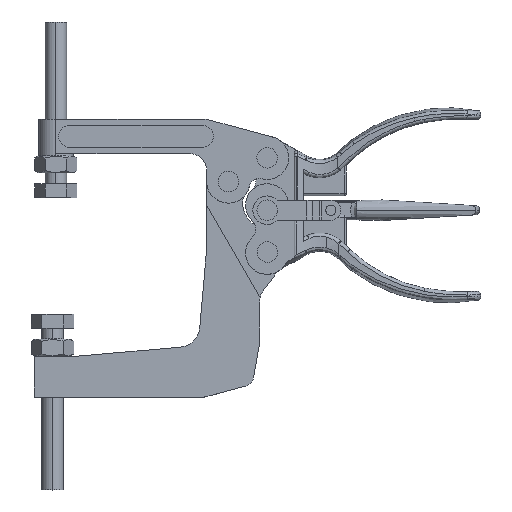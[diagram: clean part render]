
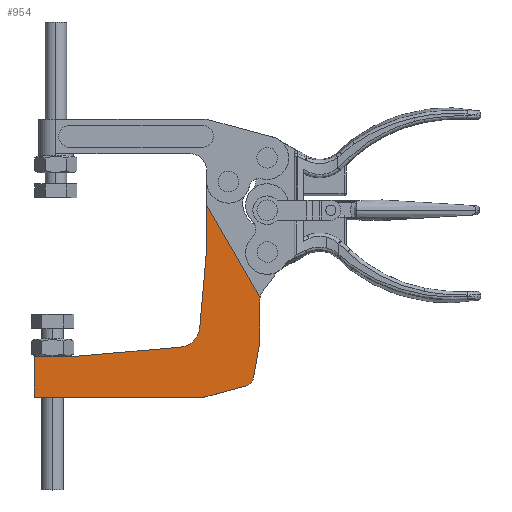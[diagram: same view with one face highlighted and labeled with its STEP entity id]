
A CAD part, top view. The second image highlights one B-rep face of the part: STEP entity #954.
In plain terms, the highlighted planar face has unit normal (0, 0, 1).
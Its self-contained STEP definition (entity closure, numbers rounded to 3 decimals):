
#134 = CARTESIAN_POINT ( 'NONE',  ( -88.108, -48.651, 0. ) ) ;
#213 = CARTESIAN_POINT ( 'NONE',  ( -6.141, -58.493, 0. ) ) ;
#310 = CARTESIAN_POINT ( 'NONE',  ( -3.348, -23.724, 0. ) ) ;
#376 = CARTESIAN_POINT ( 'NONE',  ( -11.065, -57.625, 0. ) ) ;
#414 = PLANE ( 'NONE',  #13373 ) ;
#450 = LINE ( 'NONE', #12996, #7789 ) ;
#846 = VERTEX_POINT ( 'NONE', #310 ) ;
#954 = ADVANCED_FACE ( 'NONE', ( #3756 ), #414, .T. ) ;
#1151 = VERTEX_POINT ( 'NONE', #8142 ) ;
#1406 = CARTESIAN_POINT ( 'NONE',  ( -29.165, -67.651, 0. ) ) ;
#1422 = EDGE_CURVE ( 'NONE', #11709, #1151, #5376, .T. ) ;
#1686 = DIRECTION ( 'NONE',  ( 1., 0., 0. ) ) ;
#1804 = DIRECTION ( 'NONE',  ( 0., 0., -1. ) ) ;
#1826 = VERTEX_POINT ( 'NONE', #7519 ) ;
#2223 = CARTESIAN_POINT ( 'NONE',  ( -88.108, -48.651, 0. ) ) ;
#2386 = CARTESIAN_POINT ( 'NONE',  ( -9.771, -62.455, 0. ) ) ;
#2409 = DIRECTION ( 'NONE',  ( 0., -1., 0. ) ) ;
#3004 = EDGE_CURVE ( 'NONE', #14153, #10708, #6399, .T. ) ;
#3448 = EDGE_CURVE ( 'NONE', #1826, #11562, #13144, .T. ) ;
#3533 = DIRECTION ( 'NONE',  ( 0., 0., -1. ) ) ;
#3598 = CARTESIAN_POINT ( 'NONE',  ( -27.848, 1.609, 0. ) ) ;
#3729 = CARTESIAN_POINT ( 'NONE',  ( -3.348, -42.651, 0. ) ) ;
#3756 = FACE_OUTER_BOUND ( 'NONE', #15126, .T. ) ;
#3819 = ORIENTED_EDGE ( 'NONE', *, *, #16148, .T. ) ;
#3847 = DIRECTION ( 'NONE',  ( 1., 0., 0. ) ) ;
#4034 = CARTESIAN_POINT ( 'NONE',  ( -27.848, 21.349, 0. ) ) ;
#4082 = LINE ( 'NONE', #3729, #14123 ) ;
#4114 = LINE ( 'NONE', #11711, #10224 ) ;
#4191 = ORIENTED_EDGE ( 'NONE', *, *, #3004, .T. ) ;
#4288 = ORIENTED_EDGE ( 'NONE', *, *, #10143, .T. ) ;
#4457 = ORIENTED_EDGE ( 'NONE', *, *, #10016, .T. ) ;
#4533 = ORIENTED_EDGE ( 'NONE', *, *, #15394, .T. ) ;
#4750 = LINE ( 'NONE', #15331, #7779 ) ;
#4933 = DIRECTION ( 'NONE',  ( 0.5, -0.866, 0. ) ) ;
#4954 = ORIENTED_EDGE ( 'NONE', *, *, #9521, .T. ) ;
#5359 = ORIENTED_EDGE ( 'NONE', *, *, #10897, .T. ) ;
#5376 = LINE ( 'NONE', #7389, #15415 ) ;
#5660 = CARTESIAN_POINT ( 'NONE',  ( -107.848, -48.651, 0. ) ) ;
#6329 = VECTOR ( 'NONE', #7822, 1000. ) ;
#6399 = LINE ( 'NONE', #11591, #16449 ) ;
#6463 = VECTOR ( 'NONE', #4933, 1000. ) ;
#6752 = VERTEX_POINT ( 'NONE', #4034 ) ;
#6816 = VECTOR ( 'NONE', #8732, 1000. ) ;
#7260 = ORIENTED_EDGE ( 'NONE', *, *, #14943, .T. ) ;
#7315 = CARTESIAN_POINT ( 'NONE',  ( -3.101, -21.514, 0. ) ) ;
#7389 = CARTESIAN_POINT ( 'NONE',  ( -107.848, -48.651, 0. ) ) ;
#7519 = CARTESIAN_POINT ( 'NONE',  ( -31.083, -35.367, 0. ) ) ;
#7575 = CIRCLE ( 'NONE', #12542, 5. ) ;
#7779 = VECTOR ( 'NONE', #14012, 1000. ) ;
#7789 = VECTOR ( 'NONE', #3847, 1000. ) ;
#7817 = ORIENTED_EDGE ( 'NONE', *, *, #11373, .F. ) ;
#7822 = DIRECTION ( 'NONE',  ( 0.966, 0.259, 0. ) ) ;
#8142 = CARTESIAN_POINT ( 'NONE',  ( -107.848, -67.651, 0. ) ) ;
#8285 = AXIS2_PLACEMENT_3D ( 'NONE', #11355, #3533, #12673 ) ;
#8286 = DIRECTION ( 'NONE',  ( 1., 0., 0. ) ) ;
#8552 = VERTEX_POINT ( 'NONE', #8556 ) ;
#8556 = CARTESIAN_POINT ( 'NONE',  ( -88.108, -48.651, 0. ) ) ;
#8707 = DIRECTION ( 'NONE',  ( 0., -1., 0. ) ) ;
#8732 = DIRECTION ( 'NONE',  ( -1., 0., 0. ) ) ;
#8977 = ORIENTED_EDGE ( 'NONE', *, *, #3448, .T. ) ;
#9013 = LINE ( 'NONE', #134, #15572 ) ;
#9495 = DIRECTION ( 'NONE',  ( 0., 0., 1. ) ) ;
#9521 = EDGE_CURVE ( 'NONE', #1151, #11944, #450, .T. ) ;
#9604 = CARTESIAN_POINT ( 'NONE',  ( 6.652, -23.724, 0. ) ) ;
#9805 = LINE ( 'NONE', #11717, #6329 ) ;
#9944 = LINE ( 'NONE', #10107, #6463 ) ;
#10016 = EDGE_CURVE ( 'NONE', #6752, #14971, #4114, .T. ) ;
#10107 = CARTESIAN_POINT ( 'NONE',  ( -27.848, 21.349, 0. ) ) ;
#10143 = EDGE_CURVE ( 'NONE', #11562, #8552, #9013, .T. ) ;
#10224 = VECTOR ( 'NONE', #2409, 1000. ) ;
#10708 = VERTEX_POINT ( 'NONE', #16215 ) ;
#10897 = EDGE_CURVE ( 'NONE', #846, #13898, #15950, .T. ) ;
#10921 = DIRECTION ( 'NONE',  ( 1., 0., 0. ) ) ;
#11313 = ORIENTED_EDGE ( 'NONE', *, *, #1422, .T. ) ;
#11355 = CARTESIAN_POINT ( 'NONE',  ( -41.045, -34.495, 0. ) ) ;
#11373 = EDGE_CURVE ( 'NONE', #6752, #13898, #9944, .T. ) ;
#11562 = VERTEX_POINT ( 'NONE', #13146 ) ;
#11591 = CARTESIAN_POINT ( 'NONE',  ( -3.348, -42.651, 0. ) ) ;
#11709 = VERTEX_POINT ( 'NONE', #5660 ) ;
#11711 = CARTESIAN_POINT ( 'NONE',  ( -27.848, 1.609, 0. ) ) ;
#11717 = CARTESIAN_POINT ( 'NONE',  ( -9.771, -62.455, 0. ) ) ;
#11944 = VERTEX_POINT ( 'NONE', #1406 ) ;
#12535 = ORIENTED_EDGE ( 'NONE', *, *, #16293, .T. ) ;
#12542 = AXIS2_PLACEMENT_3D ( 'NONE', #376, #9495, #1686 ) ;
#12673 = DIRECTION ( 'NONE',  ( 1., 0., 0. ) ) ;
#12911 = DIRECTION ( 'NONE',  ( 0.174, 0.985, 0. ) ) ;
#12996 = CARTESIAN_POINT ( 'NONE',  ( -29.165, -67.651, 0. ) ) ;
#13011 = ORIENTED_EDGE ( 'NONE', *, *, #14006, .T. ) ;
#13144 = CIRCLE ( 'NONE', #8285, 10. ) ;
#13146 = CARTESIAN_POINT ( 'NONE',  ( -40.173, -44.457, 0. ) ) ;
#13373 = AXIS2_PLACEMENT_3D ( 'NONE', #14820, #16120, #8286 ) ;
#13898 = VERTEX_POINT ( 'NONE', #7315 ) ;
#14006 = EDGE_CURVE ( 'NONE', #8552, #11709, #14605, .T. ) ;
#14012 = DIRECTION ( 'NONE',  ( -0.087, -0.996, 0. ) ) ;
#14081 = VERTEX_POINT ( 'NONE', #2386 ) ;
#14123 = VECTOR ( 'NONE', #16756, 1000. ) ;
#14153 = VERTEX_POINT ( 'NONE', #213 ) ;
#14517 = DIRECTION ( 'NONE',  ( -0.996, -0.087, 0. ) ) ;
#14605 = LINE ( 'NONE', #2223, #6816 ) ;
#14820 = CARTESIAN_POINT ( 'NONE',  ( -11.065, -57.625, 0. ) ) ;
#14943 = EDGE_CURVE ( 'NONE', #14971, #1826, #4750, .T. ) ;
#14971 = VERTEX_POINT ( 'NONE', #3598 ) ;
#15126 = EDGE_LOOP ( 'NONE', ( #5359, #7817, #4457, #7260, #8977, #4288, #13011, #11313, #4954, #12535, #4533, #4191, #3819 ) ) ;
#15331 = CARTESIAN_POINT ( 'NONE',  ( -27.848, 1.609, 0. ) ) ;
#15394 = EDGE_CURVE ( 'NONE', #14081, #14153, #7575, .T. ) ;
#15415 = VECTOR ( 'NONE', #8707, 1000. ) ;
#15572 = VECTOR ( 'NONE', #14517, 1000. ) ;
#15650 = AXIS2_PLACEMENT_3D ( 'NONE', #9604, #1804, #10921 ) ;
#15950 = CIRCLE ( 'NONE', #15650, 10. ) ;
#16120 = DIRECTION ( 'NONE',  ( 0., 0., 1. ) ) ;
#16148 = EDGE_CURVE ( 'NONE', #10708, #846, #4082, .T. ) ;
#16215 = CARTESIAN_POINT ( 'NONE',  ( -3.348, -42.651, 0. ) ) ;
#16293 = EDGE_CURVE ( 'NONE', #11944, #14081, #9805, .T. ) ;
#16449 = VECTOR ( 'NONE', #12911, 1000. ) ;
#16756 = DIRECTION ( 'NONE',  ( 0., 1., 0. ) ) ;
